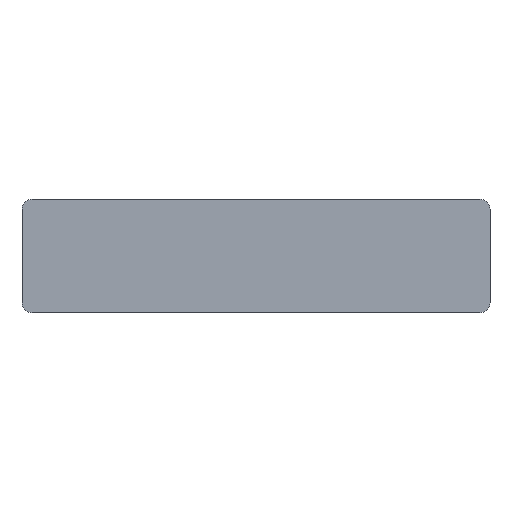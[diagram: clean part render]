
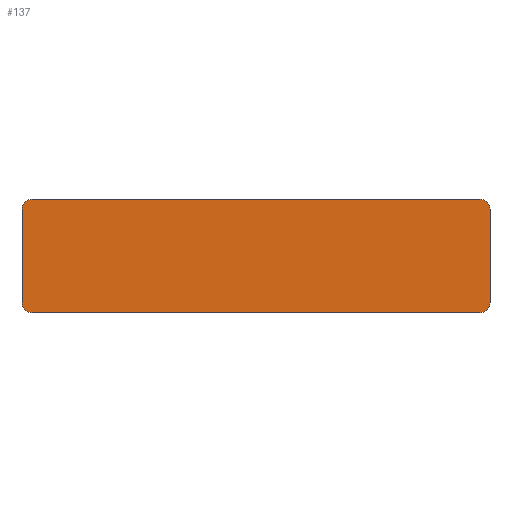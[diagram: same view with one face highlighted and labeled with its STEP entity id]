
A CAD part, top view. The second image highlights one B-rep face of the part: STEP entity #137.
In plain terms, the highlighted planar face has unit normal (0, 0, 1).
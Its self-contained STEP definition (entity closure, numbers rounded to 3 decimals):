
#21 = EDGE_CURVE('',#22,#24,#26,.T.);
#22 = VERTEX_POINT('',#23);
#23 = CARTESIAN_POINT('',(5.15,22.15,1.5));
#24 = VERTEX_POINT('',#25);
#25 = CARTESIAN_POINT('',(5.15,49.4,1.5));
#26 = SURFACE_CURVE('',#27,(#31,#43),.PCURVE_S1.);
#27 = LINE('',#28,#29);
#28 = CARTESIAN_POINT('',(5.15,19.15,1.5));
#29 = VECTOR('',#30,1.);
#30 = DIRECTION('',(-0.,1.,0.));
#31 = PCURVE('',#32,#37);
#32 = PLANE('',#33);
#33 = AXIS2_PLACEMENT_3D('',#34,#35,#36);
#34 = CARTESIAN_POINT('',(5.15,19.15,0.));
#35 = DIRECTION('',(1.,0.,-0.));
#36 = DIRECTION('',(0.,0.,1.));
#37 = DEFINITIONAL_REPRESENTATION('',(#38),#42);
#38 = LINE('',#39,#40);
#39 = CARTESIAN_POINT('',(1.5,0.));
#40 = VECTOR('',#41,1.);
#41 = DIRECTION('',(0.,-1.));
#42 = ( GEOMETRIC_REPRESENTATION_CONTEXT(2) 
PARAMETRIC_REPRESENTATION_CONTEXT() REPRESENTATION_CONTEXT('2D SPACE',''
  ) );
#43 = PCURVE('',#44,#49);
#44 = PLANE('',#45);
#45 = AXIS2_PLACEMENT_3D('',#46,#47,#48);
#46 = CARTESIAN_POINT('',(5.15,19.15,1.5));
#47 = DIRECTION('',(0.,0.,1.));
#48 = DIRECTION('',(1.,0.,-0.));
#49 = DEFINITIONAL_REPRESENTATION('',(#50),#54);
#50 = LINE('',#51,#52);
#51 = CARTESIAN_POINT('',(0.,0.));
#52 = VECTOR('',#53,1.);
#53 = DIRECTION('',(0.,1.));
#54 = ( GEOMETRIC_REPRESENTATION_CONTEXT(2) 
PARAMETRIC_REPRESENTATION_CONTEXT() REPRESENTATION_CONTEXT('2D SPACE',''
  ) );
#72 = CYLINDRICAL_SURFACE('',#73,3.);
#73 = AXIS2_PLACEMENT_3D('',#74,#75,#76);
#74 = CARTESIAN_POINT('',(8.15,22.15,0.));
#75 = DIRECTION('',(0.,0.,1.));
#76 = DIRECTION('',(-1.,-0.,0.));
#126 = CYLINDRICAL_SURFACE('',#127,3.);
#127 = AXIS2_PLACEMENT_3D('',#128,#129,#130);
#128 = CARTESIAN_POINT('',(8.15,49.4,0.));
#129 = DIRECTION('',(0.,0.,1.));
#130 = DIRECTION('',(-1.,-0.,0.));
#137 = ADVANCED_FACE('',(#138),#44,.T.);
#138 = FACE_BOUND('',#139,.T.);
#139 = EDGE_LOOP('',(#140,#141,#165,#193,#226,#254,#283,#311));
#140 = ORIENTED_EDGE('',*,*,#21,.F.);
#141 = ORIENTED_EDGE('',*,*,#142,.T.);
#142 = EDGE_CURVE('',#22,#143,#145,.T.);
#143 = VERTEX_POINT('',#144);
#144 = CARTESIAN_POINT('',(8.15,19.15,1.5));
#145 = SURFACE_CURVE('',#146,(#151,#158),.PCURVE_S1.);
#146 = CIRCLE('',#147,3.);
#147 = AXIS2_PLACEMENT_3D('',#148,#149,#150);
#148 = CARTESIAN_POINT('',(8.15,22.15,1.5));
#149 = DIRECTION('',(0.,0.,1.));
#150 = DIRECTION('',(0.,-1.,0.));
#151 = PCURVE('',#44,#152);
#152 = DEFINITIONAL_REPRESENTATION('',(#153),#157);
#153 = CIRCLE('',#154,3.);
#154 = AXIS2_PLACEMENT_2D('',#155,#156);
#155 = CARTESIAN_POINT('',(3.,3.));
#156 = DIRECTION('',(0.,-1.));
#157 = ( GEOMETRIC_REPRESENTATION_CONTEXT(2) 
PARAMETRIC_REPRESENTATION_CONTEXT() REPRESENTATION_CONTEXT('2D SPACE',''
  ) );
#158 = PCURVE('',#72,#159);
#159 = DEFINITIONAL_REPRESENTATION('',(#160),#164);
#160 = LINE('',#161,#162);
#161 = CARTESIAN_POINT('',(-4.712,1.5));
#162 = VECTOR('',#163,1.);
#163 = DIRECTION('',(1.,0.));
#164 = ( GEOMETRIC_REPRESENTATION_CONTEXT(2) 
PARAMETRIC_REPRESENTATION_CONTEXT() REPRESENTATION_CONTEXT('2D SPACE',''
  ) );
#165 = ORIENTED_EDGE('',*,*,#166,.T.);
#166 = EDGE_CURVE('',#143,#167,#169,.T.);
#167 = VERTEX_POINT('',#168);
#168 = CARTESIAN_POINT('',(138.9,19.15,1.5));
#169 = SURFACE_CURVE('',#170,(#174,#181),.PCURVE_S1.);
#170 = LINE('',#171,#172);
#171 = CARTESIAN_POINT('',(5.15,19.15,1.5));
#172 = VECTOR('',#173,1.);
#173 = DIRECTION('',(1.,0.,-0.));
#174 = PCURVE('',#44,#175);
#175 = DEFINITIONAL_REPRESENTATION('',(#176),#180);
#176 = LINE('',#177,#178);
#177 = CARTESIAN_POINT('',(0.,0.));
#178 = VECTOR('',#179,1.);
#179 = DIRECTION('',(1.,0.));
#180 = ( GEOMETRIC_REPRESENTATION_CONTEXT(2) 
PARAMETRIC_REPRESENTATION_CONTEXT() REPRESENTATION_CONTEXT('2D SPACE',''
  ) );
#181 = PCURVE('',#182,#187);
#182 = PLANE('',#183);
#183 = AXIS2_PLACEMENT_3D('',#184,#185,#186);
#184 = CARTESIAN_POINT('',(5.15,19.15,0.));
#185 = DIRECTION('',(-0.,1.,0.));
#186 = DIRECTION('',(0.,0.,1.));
#187 = DEFINITIONAL_REPRESENTATION('',(#188),#192);
#188 = LINE('',#189,#190);
#189 = CARTESIAN_POINT('',(1.5,0.));
#190 = VECTOR('',#191,1.);
#191 = DIRECTION('',(0.,1.));
#192 = ( GEOMETRIC_REPRESENTATION_CONTEXT(2) 
PARAMETRIC_REPRESENTATION_CONTEXT() REPRESENTATION_CONTEXT('2D SPACE',''
  ) );
#193 = ORIENTED_EDGE('',*,*,#194,.F.);
#194 = EDGE_CURVE('',#195,#167,#197,.T.);
#195 = VERTEX_POINT('',#196);
#196 = CARTESIAN_POINT('',(141.9,22.15,1.5));
#197 = SURFACE_CURVE('',#198,(#203,#214),.PCURVE_S1.);
#198 = CIRCLE('',#199,3.);
#199 = AXIS2_PLACEMENT_3D('',#200,#201,#202);
#200 = CARTESIAN_POINT('',(138.9,22.15,1.5));
#201 = DIRECTION('',(-0.,-0.,-1.));
#202 = DIRECTION('',(0.,-1.,0.));
#203 = PCURVE('',#44,#204);
#204 = DEFINITIONAL_REPRESENTATION('',(#205),#213);
#205 = ( BOUNDED_CURVE() B_SPLINE_CURVE(2,(#206,#207,#208,#209,#210,#211
,#212),.UNSPECIFIED.,.T.,.F.) B_SPLINE_CURVE_WITH_KNOTS((1,2,2,2,2,1),(
    -2.094,0.,2.094,4.189,6.283,
8.378),.UNSPECIFIED.) CURVE() GEOMETRIC_REPRESENTATION_ITEM() 
RATIONAL_B_SPLINE_CURVE((1.,0.5,1.,0.5,1.,0.5,1.)) REPRESENTATION_ITEM(
  '') );
#206 = CARTESIAN_POINT('',(133.75,0.));
#207 = CARTESIAN_POINT('',(128.554,0.));
#208 = CARTESIAN_POINT('',(131.152,4.5));
#209 = CARTESIAN_POINT('',(133.75,9.));
#210 = CARTESIAN_POINT('',(136.348,4.5));
#211 = CARTESIAN_POINT('',(138.946,0.));
#212 = CARTESIAN_POINT('',(133.75,0.));
#213 = ( GEOMETRIC_REPRESENTATION_CONTEXT(2) 
PARAMETRIC_REPRESENTATION_CONTEXT() REPRESENTATION_CONTEXT('2D SPACE',''
  ) );
#214 = PCURVE('',#215,#220);
#215 = CYLINDRICAL_SURFACE('',#216,3.);
#216 = AXIS2_PLACEMENT_3D('',#217,#218,#219);
#217 = CARTESIAN_POINT('',(138.9,22.15,0.));
#218 = DIRECTION('',(0.,0.,1.));
#219 = DIRECTION('',(1.,0.,-0.));
#220 = DEFINITIONAL_REPRESENTATION('',(#221),#225);
#221 = LINE('',#222,#223);
#222 = CARTESIAN_POINT('',(4.712,1.5));
#223 = VECTOR('',#224,1.);
#224 = DIRECTION('',(-1.,0.));
#225 = ( GEOMETRIC_REPRESENTATION_CONTEXT(2) 
PARAMETRIC_REPRESENTATION_CONTEXT() REPRESENTATION_CONTEXT('2D SPACE',''
  ) );
#226 = ORIENTED_EDGE('',*,*,#227,.T.);
#227 = EDGE_CURVE('',#195,#228,#230,.T.);
#228 = VERTEX_POINT('',#229);
#229 = CARTESIAN_POINT('',(141.9,49.4,1.5));
#230 = SURFACE_CURVE('',#231,(#235,#242),.PCURVE_S1.);
#231 = LINE('',#232,#233);
#232 = CARTESIAN_POINT('',(141.9,19.15,1.5));
#233 = VECTOR('',#234,1.);
#234 = DIRECTION('',(-0.,1.,0.));
#235 = PCURVE('',#44,#236);
#236 = DEFINITIONAL_REPRESENTATION('',(#237),#241);
#237 = LINE('',#238,#239);
#238 = CARTESIAN_POINT('',(136.75,0.));
#239 = VECTOR('',#240,1.);
#240 = DIRECTION('',(0.,1.));
#241 = ( GEOMETRIC_REPRESENTATION_CONTEXT(2) 
PARAMETRIC_REPRESENTATION_CONTEXT() REPRESENTATION_CONTEXT('2D SPACE',''
  ) );
#242 = PCURVE('',#243,#248);
#243 = PLANE('',#244);
#244 = AXIS2_PLACEMENT_3D('',#245,#246,#247);
#245 = CARTESIAN_POINT('',(141.9,19.15,0.));
#246 = DIRECTION('',(1.,0.,-0.));
#247 = DIRECTION('',(0.,0.,1.));
#248 = DEFINITIONAL_REPRESENTATION('',(#249),#253);
#249 = LINE('',#250,#251);
#250 = CARTESIAN_POINT('',(1.5,0.));
#251 = VECTOR('',#252,1.);
#252 = DIRECTION('',(0.,-1.));
#253 = ( GEOMETRIC_REPRESENTATION_CONTEXT(2) 
PARAMETRIC_REPRESENTATION_CONTEXT() REPRESENTATION_CONTEXT('2D SPACE',''
  ) );
#254 = ORIENTED_EDGE('',*,*,#255,.T.);
#255 = EDGE_CURVE('',#228,#256,#258,.T.);
#256 = VERTEX_POINT('',#257);
#257 = CARTESIAN_POINT('',(138.9,52.4,1.5));
#258 = SURFACE_CURVE('',#259,(#264,#271),.PCURVE_S1.);
#259 = CIRCLE('',#260,3.);
#260 = AXIS2_PLACEMENT_3D('',#261,#262,#263);
#261 = CARTESIAN_POINT('',(138.9,49.4,1.5));
#262 = DIRECTION('',(0.,0.,1.));
#263 = DIRECTION('',(0.,-1.,0.));
#264 = PCURVE('',#44,#265);
#265 = DEFINITIONAL_REPRESENTATION('',(#266),#270);
#266 = CIRCLE('',#267,3.);
#267 = AXIS2_PLACEMENT_2D('',#268,#269);
#268 = CARTESIAN_POINT('',(133.75,30.25));
#269 = DIRECTION('',(0.,-1.));
#270 = ( GEOMETRIC_REPRESENTATION_CONTEXT(2) 
PARAMETRIC_REPRESENTATION_CONTEXT() REPRESENTATION_CONTEXT('2D SPACE',''
  ) );
#271 = PCURVE('',#272,#277);
#272 = CYLINDRICAL_SURFACE('',#273,3.);
#273 = AXIS2_PLACEMENT_3D('',#274,#275,#276);
#274 = CARTESIAN_POINT('',(138.9,49.4,0.));
#275 = DIRECTION('',(0.,0.,1.));
#276 = DIRECTION('',(1.,0.,-0.));
#277 = DEFINITIONAL_REPRESENTATION('',(#278),#282);
#278 = LINE('',#279,#280);
#279 = CARTESIAN_POINT('',(-1.571,1.5));
#280 = VECTOR('',#281,1.);
#281 = DIRECTION('',(1.,0.));
#282 = ( GEOMETRIC_REPRESENTATION_CONTEXT(2) 
PARAMETRIC_REPRESENTATION_CONTEXT() REPRESENTATION_CONTEXT('2D SPACE',''
  ) );
#283 = ORIENTED_EDGE('',*,*,#284,.F.);
#284 = EDGE_CURVE('',#285,#256,#287,.T.);
#285 = VERTEX_POINT('',#286);
#286 = CARTESIAN_POINT('',(8.15,52.4,1.5));
#287 = SURFACE_CURVE('',#288,(#292,#299),.PCURVE_S1.);
#288 = LINE('',#289,#290);
#289 = CARTESIAN_POINT('',(5.15,52.4,1.5));
#290 = VECTOR('',#291,1.);
#291 = DIRECTION('',(1.,0.,-0.));
#292 = PCURVE('',#44,#293);
#293 = DEFINITIONAL_REPRESENTATION('',(#294),#298);
#294 = LINE('',#295,#296);
#295 = CARTESIAN_POINT('',(0.,33.25));
#296 = VECTOR('',#297,1.);
#297 = DIRECTION('',(1.,0.));
#298 = ( GEOMETRIC_REPRESENTATION_CONTEXT(2) 
PARAMETRIC_REPRESENTATION_CONTEXT() REPRESENTATION_CONTEXT('2D SPACE',''
  ) );
#299 = PCURVE('',#300,#305);
#300 = PLANE('',#301);
#301 = AXIS2_PLACEMENT_3D('',#302,#303,#304);
#302 = CARTESIAN_POINT('',(5.15,52.4,0.));
#303 = DIRECTION('',(-0.,1.,0.));
#304 = DIRECTION('',(0.,0.,1.));
#305 = DEFINITIONAL_REPRESENTATION('',(#306),#310);
#306 = LINE('',#307,#308);
#307 = CARTESIAN_POINT('',(1.5,0.));
#308 = VECTOR('',#309,1.);
#309 = DIRECTION('',(0.,1.));
#310 = ( GEOMETRIC_REPRESENTATION_CONTEXT(2) 
PARAMETRIC_REPRESENTATION_CONTEXT() REPRESENTATION_CONTEXT('2D SPACE',''
  ) );
#311 = ORIENTED_EDGE('',*,*,#312,.F.);
#312 = EDGE_CURVE('',#24,#285,#313,.T.);
#313 = SURFACE_CURVE('',#314,(#319,#330),.PCURVE_S1.);
#314 = CIRCLE('',#315,3.);
#315 = AXIS2_PLACEMENT_3D('',#316,#317,#318);
#316 = CARTESIAN_POINT('',(8.15,49.4,1.5));
#317 = DIRECTION('',(-0.,-0.,-1.));
#318 = DIRECTION('',(0.,-1.,0.));
#319 = PCURVE('',#44,#320);
#320 = DEFINITIONAL_REPRESENTATION('',(#321),#329);
#321 = ( BOUNDED_CURVE() B_SPLINE_CURVE(2,(#322,#323,#324,#325,#326,#327
,#328),.UNSPECIFIED.,.T.,.F.) B_SPLINE_CURVE_WITH_KNOTS((1,2,2,2,2,1),(
    -2.094,0.,2.094,4.189,6.283,
8.378),.UNSPECIFIED.) CURVE() GEOMETRIC_REPRESENTATION_ITEM() 
RATIONAL_B_SPLINE_CURVE((1.,0.5,1.,0.5,1.,0.5,1.)) REPRESENTATION_ITEM(
  '') );
#322 = CARTESIAN_POINT('',(3.,27.25));
#323 = CARTESIAN_POINT('',(-2.196,27.25));
#324 = CARTESIAN_POINT('',(0.402,31.75));
#325 = CARTESIAN_POINT('',(3.,36.25));
#326 = CARTESIAN_POINT('',(5.598,31.75));
#327 = CARTESIAN_POINT('',(8.196,27.25));
#328 = CARTESIAN_POINT('',(3.,27.25));
#329 = ( GEOMETRIC_REPRESENTATION_CONTEXT(2) 
PARAMETRIC_REPRESENTATION_CONTEXT() REPRESENTATION_CONTEXT('2D SPACE',''
  ) );
#330 = PCURVE('',#126,#331);
#331 = DEFINITIONAL_REPRESENTATION('',(#332),#336);
#332 = LINE('',#333,#334);
#333 = CARTESIAN_POINT('',(1.571,1.5));
#334 = VECTOR('',#335,1.);
#335 = DIRECTION('',(-1.,0.));
#336 = ( GEOMETRIC_REPRESENTATION_CONTEXT(2) 
PARAMETRIC_REPRESENTATION_CONTEXT() REPRESENTATION_CONTEXT('2D SPACE',''
  ) );
